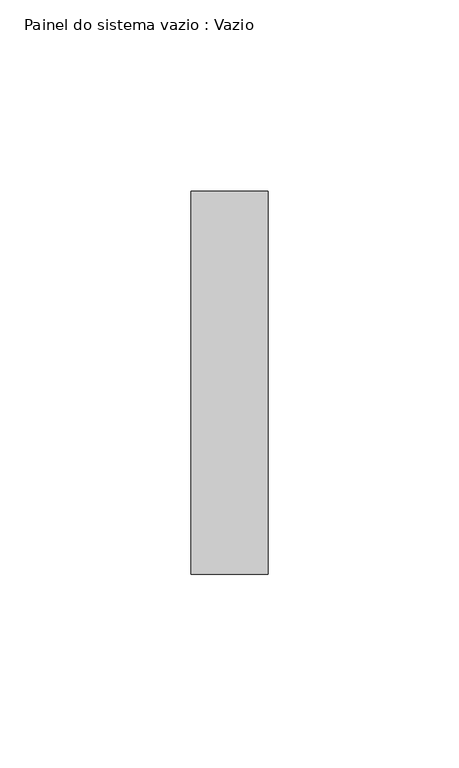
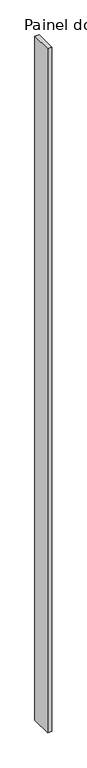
"""IFC4 building model written with IfcOpenShell, lengths in millimetres: plate geometry, Painel do sistema vazio : Vazio."""

from ifc_helpers import new_model, si_unit, origin, origin_with_axes, place, context, project, spatial, polyline, outline, extrude, source, transform, mapped, element, save


def painel_do_sistema_vazio_vazio_94448bae(model_context):
    return source(origin(), model_context, "Body", "SweptSolid", [
        extrude(outline(polyline([(10.0, -50.0), (-10.0, -50.0), (-10.0, 50.0), (10.0, 50.0), (10.0, -50.0)])), origin_with_axes(), (0.0, 0.0, 1.0), 3310.0),
    ])


if __name__ == "__main__":
    model = new_model("IFC4")
    model_context = context("Model", 3, world=origin())
    ifc_project = project(units=[si_unit("LENGTHUNIT", "METRE", prefix="MILLI")], contexts=[model_context])
    site = spatial("IfcSite", under=ifc_project)
    building = spatial("IfcBuilding", under=site)
    placement = place(None, origin())
    painel_do_sistema_vazio_vazio_shape = painel_do_sistema_vazio_vazio_94448bae(model_context)
    element("IfcPlate", 1, ObjectType="Painel do sistema vazio : Vazio", at=placement, inside=building, context=model_context, shape_type="MappedRepresentation", body=[
        mapped(painel_do_sistema_vazio_vazio_shape, transform((0.0, 0.0, 0.0), x_axis=(1.0, 0.0, 0.0), y_axis=(0.0, 1.0, 0.0), z_axis=(0.0, 0.0, 1.0))),
    ])
    save(model, "model.ifc")
